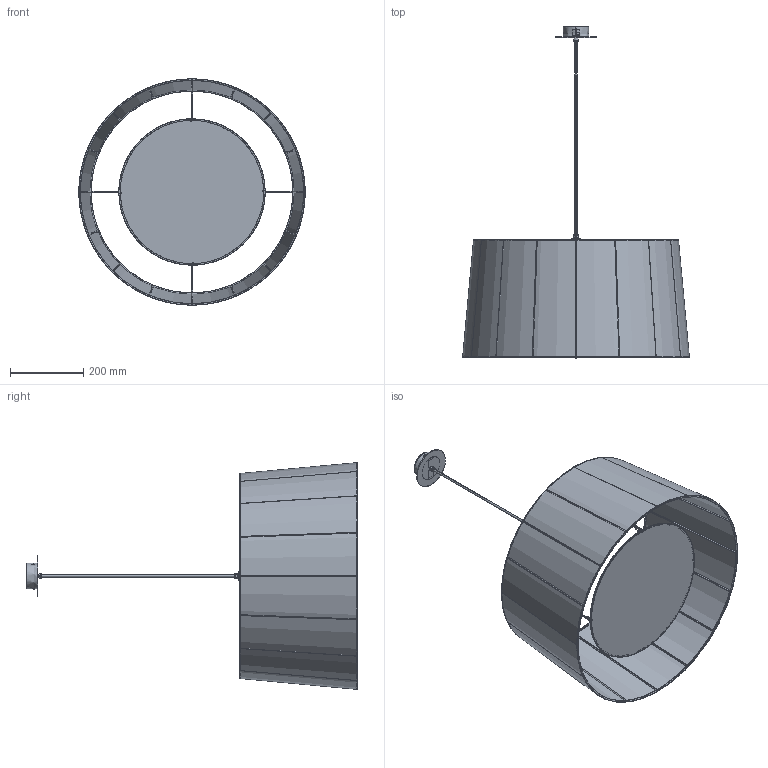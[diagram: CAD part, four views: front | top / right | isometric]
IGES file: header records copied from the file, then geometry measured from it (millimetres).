
Start section: SolidWorks IGES file using analytic representation for surfaces
Global section: file name: C:\SANTACOLE_PDM\Proyectos Catálogo\PROD-P13-037 -- GT5\6_Técnico comercial\GT5.IGS; native system: SolidWorks 2019; preprocessor: SolidWorks 2019; author: ana.pascual; date: 200406.091901; units: millimetre
Bounding box: 620 x 906.61 x 620 mm (x, y, z)
Surface area: 1692730.4 mm2 (no closed solid volume)
Topology: 0 solids, 0 shells, 886 faces, 10421 edges, 10421 vertices
Faces by surface type: bspline 480, revolution 406
